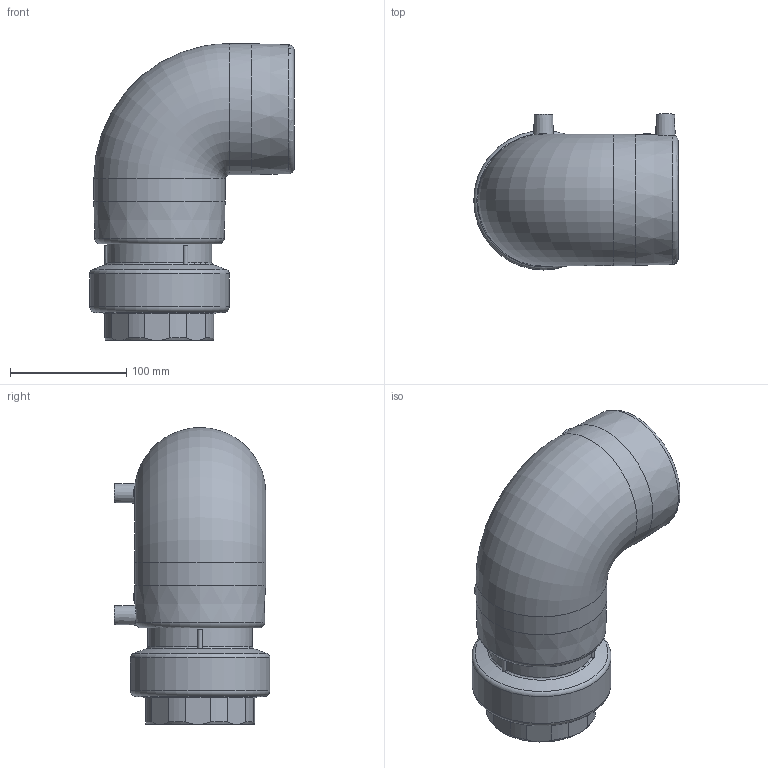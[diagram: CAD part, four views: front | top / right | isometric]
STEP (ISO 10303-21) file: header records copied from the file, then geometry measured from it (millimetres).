
FILE_DESCRIPTION(/* description */ ('Unknown'),/* implementation_level */ '2;1');
FILE_NAME(/* name */ 'GE9TFP090C',/* time_stamp */ '2021-03-02T14:59:04+01:00',/* author */ ('Unknown'),/* organization */ ('Unknown'),/* preprocessor_version */ 'ST-DEVELOPER v16.7',/* originating_system */ 'Solid Edge',/* authorisation */ 'Unknown');
FILE_SCHEMA (('AUTOMOTIVE_DESIGN {1 0 10303 214 3 1 1}'));
Length unit declared in the file: millimetre
Products named in the file (5): GE9TFP090C; GE9P090C; RTOFP090C; Parte PE 090; IOF090C
Assembly tree (4 placements, depth 3):
  GE9TFP090C
    GE9P090C
    RTOFP090C
      Parte PE 090
      IOF090C
Bounding box: 176 x 134 x 255.5 mm (x, y, z)
Volume: 1290611.8 mm3; surface area: 274205.2 mm2
Topology: 3 solids, 3 shells, 511 faces, 1233 edges, 746 vertices
Faces by surface type: bspline 231, plane 109, cylinder 93, cone 39, torus 39
Full cylindrical faces by diameter (mm): 4 x2, 6 x2, 12 x2, 73.6 x1, 79.5 x2, 84.5 x2, 84.926 x1, 90 x3, 97 x2, 98.4 x2, 104 x4, 113 x2, 120 x1
Entity records: 19056 total; most frequent: CARTESIAN_POINT 7019, ORIENTED_EDGE 2356, DIRECTION 1910, EDGE_CURVE 1178, AXIS2_PLACEMENT_3D 889, VERTEX_POINT 729, EDGE_LOOP 573, FACE_BOUND 573
